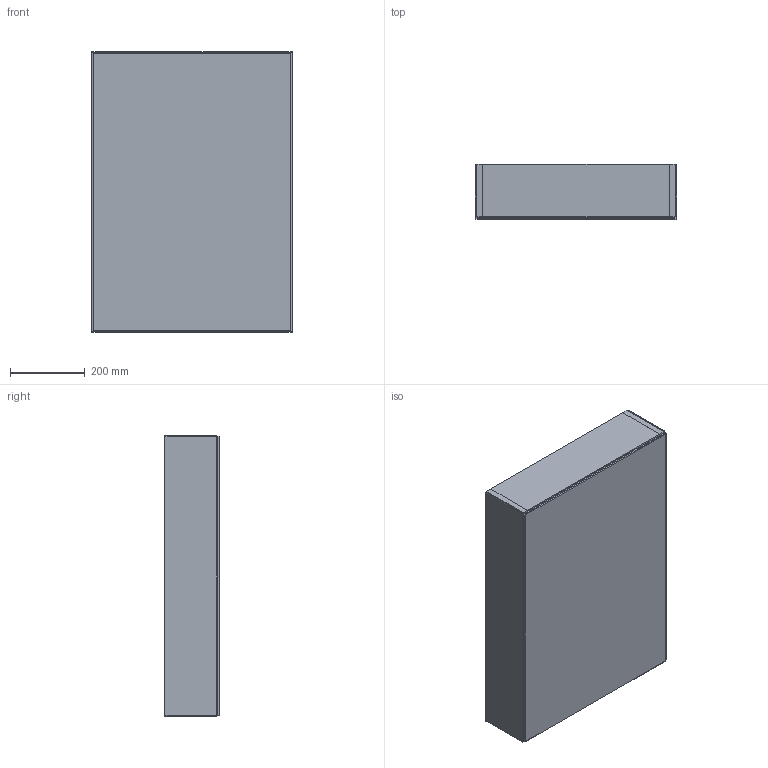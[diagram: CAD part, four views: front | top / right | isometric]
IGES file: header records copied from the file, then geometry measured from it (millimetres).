
Start section: Data from Parasolid IGES Translator 19.0.9, Copyright(c) 2006 Siemens PL M Software. All Rights Reserved.
Global section: file name: noorth-mirror-H 75 D 14,7 W 54_9053.igs; native system: By Siemens PLM Incorporated; preprocessor: XPlus GENERIC/IGES 19.0.9; author: Noname; organization: Noname; date: 20200519.094702; units: metre
Bounding box: 539.82 x 147 x 750 mm (x, y, z)
Volume: 10880588.6 mm3; surface area: 3064341.5 mm2
Topology: 11 solids, 11 shells, 170 faces, 324 edges, 176 vertices
Faces by surface type: plane 170
